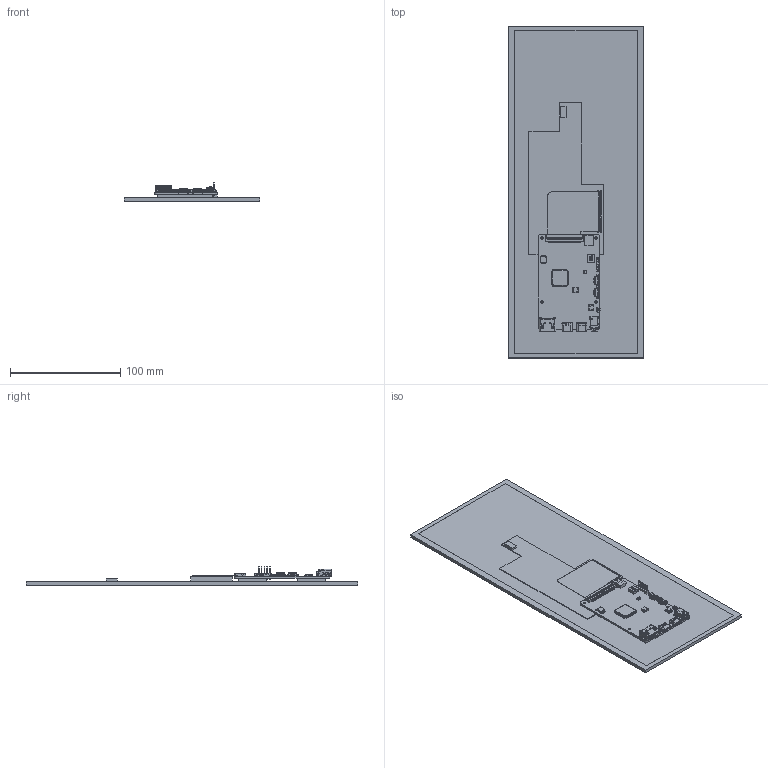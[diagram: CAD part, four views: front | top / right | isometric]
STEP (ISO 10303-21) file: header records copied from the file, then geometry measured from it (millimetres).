
FILE_DESCRIPTION((''),'2;1');
FILE_NAME('12_3INCH-1920X720-LCD_ASM','2025-08-01T17:40:23',('ag'),(''),'CREO PARAMETRIC BY PTC INC, 2021063','CREO PARAMETRIC BY PTC INC, 2021063','');
FILE_SCHEMA(('CONFIG_CONTROL_DESIGN','SHAPE_APPEARANCE_LAYERS_GROUPS'));
Products named in the file (23): 12_3INCH-LCD; HL2416_KICAD_PCB; USER_LIBRARY-SM02B-BHSS--237540; USER_LIBRARY-SM02B-BHSS--237517_ASM; 139111; 1_25MM_4P_90C_ASM; TS-1010-B-A-246552; LQFP_128_14X14MM_P04MM; SOIC_8_5275X5275MM_P127MM; SOIC_8_39X49MM_P127MM; PINHEADER_1X05_P254MM_VERTICAL; USER_LIBRARY-06030; USER_LIBRARY-USB_TYPE_C_-282_15; SOT_23_5; CUI_DEVICES_SJ2-35894D-S-3062_2; 47151-0001_1; FH28-60S-0_5SH_0001; DX07S024JJ7R1200_1_6; SSOP-10_L5_0-W3_9-P1_00--265_11; PCB-HL2416_KICAD_3D_ASM; 00; 12_3INCH-1920X720-LCD_ASM
Assembly tree (24 placements, depth 4):
  12_3INCH-1920X720-LCD_ASM
    12_3INCH-LCD
    PCB-HL2416_KICAD_3D_ASM
      HL2416_KICAD_PCB
      USER_LIBRARY-SM02B-BHSS--237517_ASM
        USER_LIBRARY-SM02B-BHSS--237540
      1_25MM_4P_90C_ASM  x2
        139111
      TS-1010-B-A-246552
      LQFP_128_14X14MM_P04MM
      SOIC_8_5275X5275MM_P127MM
      SOIC_8_39X49MM_P127MM
      PINHEADER_1X05_P254MM_VERTICAL
      USER_LIBRARY-06030
      USER_LIBRARY-USB_TYPE_C_-282_15
      SOT_23_5
      CUI_DEVICES_SJ2-35894D-S-3062_2
      47151-0001_1
      FH28-60S-0_5SH_0001
      DX07S024JJ7R1200_1_6
      SSOP-10_L5_0-W3_9-P1_00--265_11
    00  x2
    00
Bounding box: 123.35 x 301.2 x 16.69 mm (x, y, z)
Volume: 134633 mm3; surface area: 104328 mm2
Topology: 34 solids, 48 shells, 9325 faces, 26161 edges, 16994 vertices
Faces by surface type: plane 7127, cylinder 1847, extrusion 230, cone 50, sphere 28, torus 26, bspline 17
Entity records: 327882 total; most frequent: CARTESIAN_POINT 61683, ORIENTED_EDGE 50898, DIRECTION 46259, EDGE_CURVE 25483, VECTOR 21169, LINE 20939, VERTEX_POINT 16570, AXIS2_PLACEMENT_3D 12545
